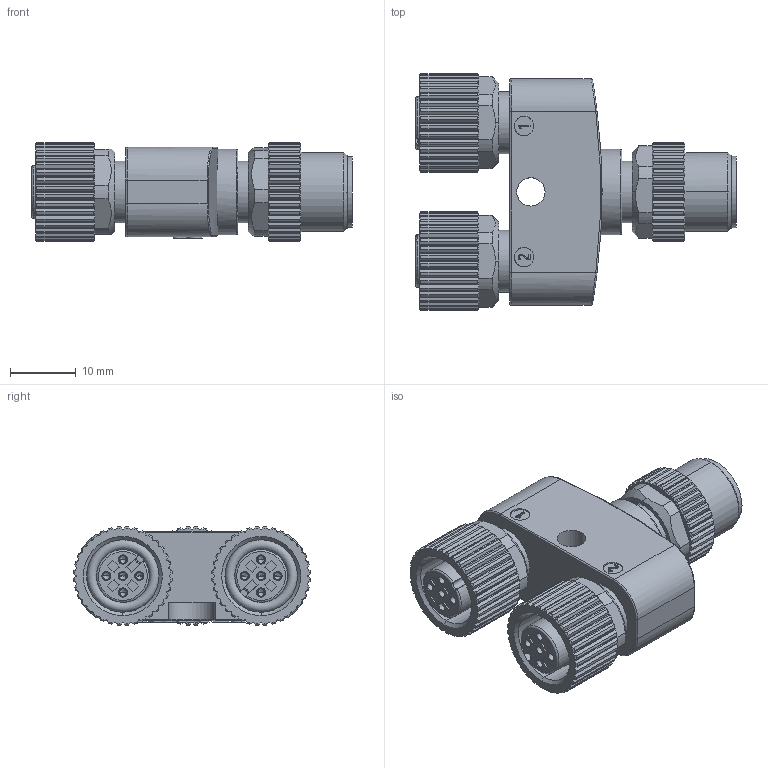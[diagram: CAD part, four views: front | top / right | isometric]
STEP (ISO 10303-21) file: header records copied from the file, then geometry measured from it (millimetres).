
FILE_DESCRIPTION(/* description */ (''),/* implementation_level */ '2;1');
FILE_NAME(/* name */ 'M12-2M12-Y.stp',/* time_stamp */ '2018-07-26T09:49:03+08:00',/* author */ (''),/* organization */ (''),/* preprocessor_version */ 'ST-DEVELOPER v16',/* originating_system */ 'SIEMENS PLM Software NX 10.0',/* authorisation */ '');
FILE_SCHEMA (('AP203_CONFIGURATION_CONTROLLED_3D_DESIGN_OF_MECHANICAL_PARTS_AND_ASSEMBLIES_MIM_LF { 1 0 10303 403 2 1 2}'));
Products named in the file (1): 91470FB84CB5g8rr
Bounding box: 48.7 x 35.98 x 14.98 mm (x, y, z)
Volume: 11233.7 mm3; surface area: 11570.4 mm2
Topology: 3 solids, 31 shells, 1616 faces, 4553 edges, 3003 vertices
Faces by surface type: plane 605, cylinder 483, cone 321, extrusion 139, torus 29, bspline 29, sphere 10
Full cylindrical faces by diameter (mm): 1.2 x10, 2 x5, 2.1 x35, 4.3 x1, 9.4 x3, 9.8 x1, 10.8 x3, 13 x1
Entity records: 56574 total; most frequent: CARTESIAN_POINT 15714, ORIENTED_EDGE 8828, DIRECTION 7981, EDGE_CURVE 4420, VERTEX_POINT 2979, AXIS2_PLACEMENT_3D 2920, VECTOR 2141, LINE 2002
